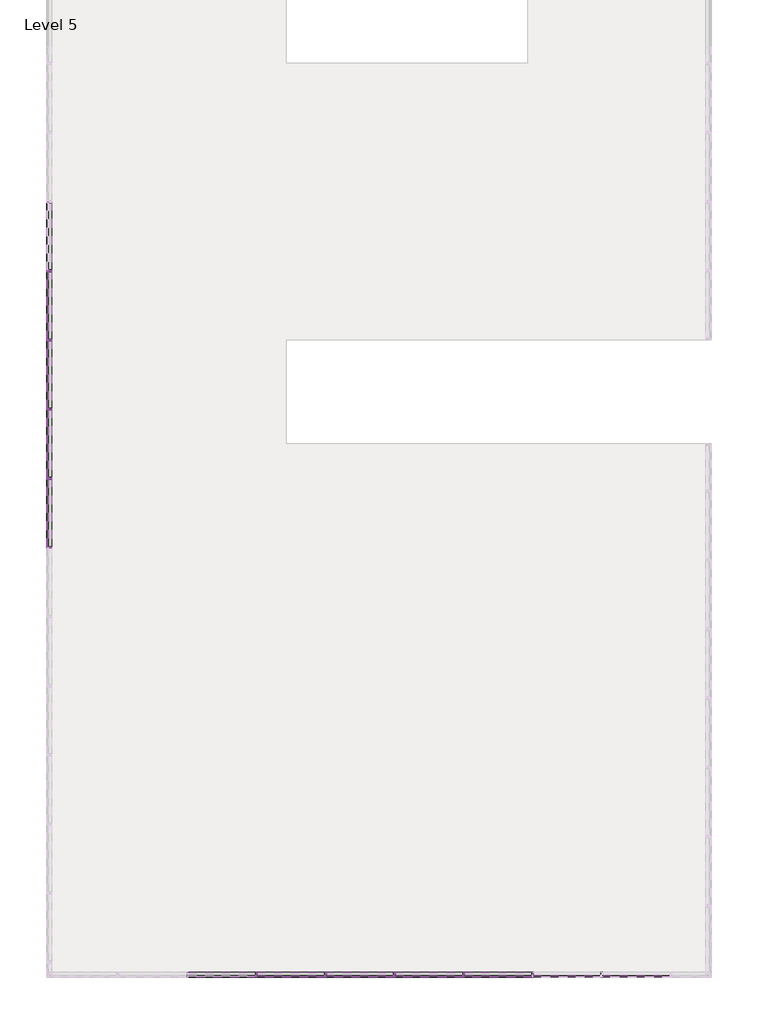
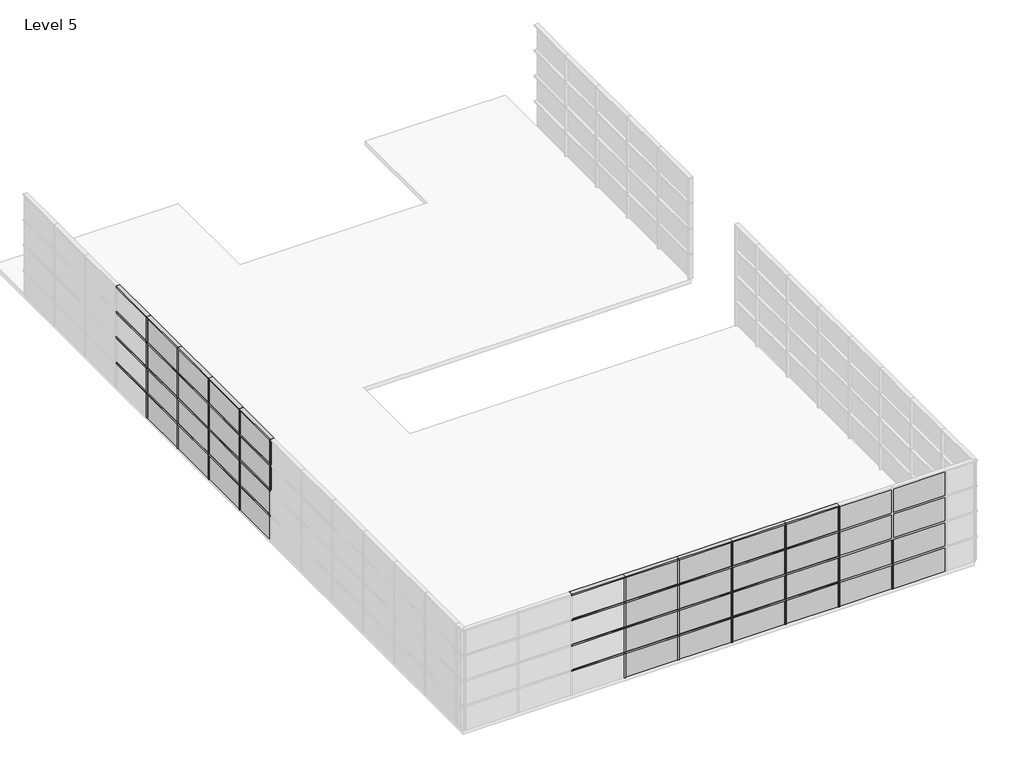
# One storey, part 2 of 5: 80 members, 40 plates.
"""IFC4 building model written with IfcOpenShell, lengths in millimetres."""

from ifc_helpers import new_model, si_unit, origin, place, context, project, spatial, transform, mapped, element, save
from components import rectangular_mullion_50_x_150mm_a053b0ca, rectangular_mullion_50_x_150mm_3a148f0f, system_panel_glazed_08de6f5f

model = new_model("IFC4")

# Units and contexts
model_context = context("Model", 3, world=origin())
ifc_project = project(units=[si_unit("LENGTHUNIT", "METRE", prefix="MILLI")], contexts=[model_context])

# Site, building, storey
site = spatial("IfcSite", under=ifc_project)
building = spatial("IfcBuilding", under=site)
storey = spatial("IfcBuildingStorey", under=building, Name="Level 5", Elevation=16000.0)

# Members
placement = place(None, origin())
rectangular_mullion_50_x_150mm_shape = rectangular_mullion_50_x_150mm_a053b0ca(model_context)
element("IfcMember", 1, ObjectType="Rectangular Mullion : 50 x 150mm", at=placement, inside=storey, context=model_context, shape_type="MappedRepresentation", body=[
    mapped(rectangular_mullion_50_x_150mm_shape, transform((412.826594, -21988.7417365, 16025.0), x_axis=(1.0, 0.0, 0.0), y_axis=(0.0, -1.0, 0.0), z_axis=(0.0, 0.0, -1.0))),
])
element("IfcMember", 2, ObjectType="Rectangular Mullion : 50 x 150mm", at=placement, inside=storey, context=model_context, shape_type="MappedRepresentation", body=[
    mapped(rectangular_mullion_50_x_150mm_shape, transform((412.826594, -21988.7417365, 17025.0), x_axis=(1.0, 0.0, 0.0), y_axis=(0.0, -1.0, 0.0), z_axis=(0.0, 0.0, -1.0))),
])
element("IfcMember", 3, ObjectType="Rectangular Mullion : 50 x 150mm", at=placement, inside=storey, context=model_context, shape_type="MappedRepresentation", body=[
    mapped(rectangular_mullion_50_x_150mm_shape, transform((412.826594, -21988.7417365, 18025.0), x_axis=(1.0, 0.0, 0.0), y_axis=(0.0, -1.0, 0.0), z_axis=(0.0, 0.0, -1.0))),
])
element("IfcMember", 4, ObjectType="Rectangular Mullion : 50 x 150mm", at=placement, inside=storey, context=model_context, shape_type="MappedRepresentation", body=[
    mapped(rectangular_mullion_50_x_150mm_shape, transform((412.826594, -21988.7417365, 19025.0), x_axis=(1.0, 0.0, 0.0), y_axis=(0.0, -1.0, 0.0), z_axis=(0.0, 0.0, -1.0))),
])
element("IfcMember", 5, ObjectType="Rectangular Mullion : 50 x 150mm", at=placement, inside=storey, context=model_context, shape_type="MappedRepresentation", body=[
    mapped(rectangular_mullion_50_x_150mm_shape, transform((2412.826594, -21988.7417365, 16025.0), x_axis=(1.0, 0.0, 0.0), y_axis=(0.0, -1.0, 0.0), z_axis=(0.0, 0.0, -1.0))),
])
element("IfcMember", 6, ObjectType="Rectangular Mullion : 50 x 150mm", at=placement, inside=storey, context=model_context, shape_type="MappedRepresentation", body=[
    mapped(rectangular_mullion_50_x_150mm_shape, transform((2412.826594, -21988.7417365, 17025.0), x_axis=(1.0, 0.0, 0.0), y_axis=(0.0, -1.0, 0.0), z_axis=(0.0, 0.0, -1.0))),
])
element("IfcMember", 7, ObjectType="Rectangular Mullion : 50 x 150mm", at=placement, inside=storey, context=model_context, shape_type="MappedRepresentation", body=[
    mapped(rectangular_mullion_50_x_150mm_shape, transform((2412.826594, -21988.7417365, 18025.0), x_axis=(1.0, 0.0, 0.0), y_axis=(0.0, -1.0, 0.0), z_axis=(0.0, 0.0, -1.0))),
])
element("IfcMember", 8, ObjectType="Rectangular Mullion : 50 x 150mm", at=placement, inside=storey, context=model_context, shape_type="MappedRepresentation", body=[
    mapped(rectangular_mullion_50_x_150mm_shape, transform((2412.826594, -21988.7417365, 19025.0), x_axis=(1.0, 0.0, 0.0), y_axis=(0.0, -1.0, 0.0), z_axis=(0.0, 0.0, -1.0))),
])
element("IfcMember", 9, ObjectType="Rectangular Mullion : 50 x 150mm", at=placement, inside=storey, context=model_context, shape_type="MappedRepresentation", body=[
    mapped(rectangular_mullion_50_x_150mm_shape, transform((4412.826594, -21988.7417365, 16025.0), x_axis=(1.0, 0.0, 0.0), y_axis=(0.0, -1.0, 0.0), z_axis=(0.0, 0.0, -1.0))),
])
element("IfcMember", 10, ObjectType="Rectangular Mullion : 50 x 150mm", at=placement, inside=storey, context=model_context, shape_type="MappedRepresentation", body=[
    mapped(rectangular_mullion_50_x_150mm_shape, transform((4412.826594, -21988.7417365, 17025.0), x_axis=(1.0, 0.0, 0.0), y_axis=(0.0, -1.0, 0.0), z_axis=(0.0, 0.0, -1.0))),
])
element("IfcMember", 11, ObjectType="Rectangular Mullion : 50 x 150mm", at=placement, inside=storey, context=model_context, shape_type="MappedRepresentation", body=[
    mapped(rectangular_mullion_50_x_150mm_shape, transform((4412.826594, -21988.7417365, 18025.0), x_axis=(1.0, 0.0, 0.0), y_axis=(0.0, -1.0, 0.0), z_axis=(0.0, 0.0, -1.0))),
])
element("IfcMember", 12, ObjectType="Rectangular Mullion : 50 x 150mm", at=placement, inside=storey, context=model_context, shape_type="MappedRepresentation", body=[
    mapped(rectangular_mullion_50_x_150mm_shape, transform((4412.826594, -21988.7417365, 19025.0), x_axis=(1.0, 0.0, 0.0), y_axis=(0.0, -1.0, 0.0), z_axis=(0.0, 0.0, -1.0))),
])
element("IfcMember", 13, ObjectType="Rectangular Mullion : 50 x 150mm", at=placement, inside=storey, context=model_context, shape_type="MappedRepresentation", body=[
    mapped(rectangular_mullion_50_x_150mm_shape, transform((6412.826594, -21988.7417365, 16025.0), x_axis=(1.0, 0.0, 0.0), y_axis=(0.0, -1.0, 0.0), z_axis=(0.0, 0.0, -1.0))),
])
element("IfcMember", 14, ObjectType="Rectangular Mullion : 50 x 150mm", at=placement, inside=storey, context=model_context, shape_type="MappedRepresentation", body=[
    mapped(rectangular_mullion_50_x_150mm_shape, transform((6412.826594, -21988.7417365, 17025.0), x_axis=(1.0, 0.0, 0.0), y_axis=(0.0, -1.0, 0.0), z_axis=(0.0, 0.0, -1.0))),
])
element("IfcMember", 15, ObjectType="Rectangular Mullion : 50 x 150mm", at=placement, inside=storey, context=model_context, shape_type="MappedRepresentation", body=[
    mapped(rectangular_mullion_50_x_150mm_shape, transform((6412.826594, -21988.7417365, 18025.0), x_axis=(1.0, 0.0, 0.0), y_axis=(0.0, -1.0, 0.0), z_axis=(0.0, 0.0, -1.0))),
])
element("IfcMember", 16, ObjectType="Rectangular Mullion : 50 x 150mm", at=placement, inside=storey, context=model_context, shape_type="MappedRepresentation", body=[
    mapped(rectangular_mullion_50_x_150mm_shape, transform((6412.826594, -21988.7417365, 19025.0), x_axis=(1.0, 0.0, 0.0), y_axis=(0.0, -1.0, 0.0), z_axis=(0.0, 0.0, -1.0))),
])
element("IfcMember", 17, ObjectType="Rectangular Mullion : 50 x 150mm", at=placement, inside=storey, context=model_context, shape_type="MappedRepresentation", body=[
    mapped(rectangular_mullion_50_x_150mm_shape, transform((8412.826594, -21988.7417365, 16025.0), x_axis=(1.0, 0.0, 0.0), y_axis=(0.0, -1.0, 0.0), z_axis=(0.0, 0.0, -1.0))),
])
element("IfcMember", 18, ObjectType="Rectangular Mullion : 50 x 150mm", at=placement, inside=storey, context=model_context, shape_type="MappedRepresentation", body=[
    mapped(rectangular_mullion_50_x_150mm_shape, transform((8412.826594, -21988.7417365, 17025.0), x_axis=(1.0, 0.0, 0.0), y_axis=(0.0, -1.0, 0.0), z_axis=(0.0, 0.0, -1.0))),
])
element("IfcMember", 19, ObjectType="Rectangular Mullion : 50 x 150mm", at=placement, inside=storey, context=model_context, shape_type="MappedRepresentation", body=[
    mapped(rectangular_mullion_50_x_150mm_shape, transform((8412.826594, -21988.7417365, 18025.0), x_axis=(1.0, 0.0, 0.0), y_axis=(0.0, -1.0, 0.0), z_axis=(0.0, 0.0, -1.0))),
])
element("IfcMember", 20, ObjectType="Rectangular Mullion : 50 x 150mm", at=placement, inside=storey, context=model_context, shape_type="MappedRepresentation", body=[
    mapped(rectangular_mullion_50_x_150mm_shape, transform((8412.826594, -21988.7417365, 19025.0), x_axis=(1.0, 0.0, 0.0), y_axis=(0.0, -1.0, 0.0), z_axis=(0.0, 0.0, -1.0))),
])
element("IfcMember", 21, ObjectType="Rectangular Mullion : 50 x 150mm", at=placement, inside=storey, context=model_context, shape_type="MappedRepresentation", body=[
    mapped(rectangular_mullion_50_x_150mm_shape, transform((10412.826594, -21988.7417365, 16025.0), x_axis=(1.0, 0.0, 0.0), y_axis=(0.0, -1.0, 0.0), z_axis=(0.0, 0.0, -1.0))),
])
element("IfcMember", 22, ObjectType="Rectangular Mullion : 50 x 150mm", at=placement, inside=storey, context=model_context, shape_type="MappedRepresentation", body=[
    mapped(rectangular_mullion_50_x_150mm_shape, transform((10412.826594, -21988.7417365, 17025.0), x_axis=(1.0, 0.0, 0.0), y_axis=(0.0, -1.0, 0.0), z_axis=(0.0, 0.0, -1.0))),
])
element("IfcMember", 23, ObjectType="Rectangular Mullion : 50 x 150mm", at=placement, inside=storey, context=model_context, shape_type="MappedRepresentation", body=[
    mapped(rectangular_mullion_50_x_150mm_shape, transform((-5587.173406, -1624.0160434, 18025.0), x_axis=(0.0, -1.0, 0.0), y_axis=(-1.0, 0.0, 0.0), z_axis=(0.0, 0.0, -1.0))),
])
element("IfcMember", 24, ObjectType="Rectangular Mullion : 50 x 150mm", at=placement, inside=storey, context=model_context, shape_type="MappedRepresentation", body=[
    mapped(rectangular_mullion_50_x_150mm_shape, transform((-5587.173406, -1624.0160434, 19025.0), x_axis=(0.0, -1.0, 0.0), y_axis=(-1.0, 0.0, 0.0), z_axis=(0.0, 0.0, -1.0))),
])
element("IfcMember", 25, ObjectType="Rectangular Mullion : 50 x 150mm", at=placement, inside=storey, context=model_context, shape_type="MappedRepresentation", body=[
    mapped(rectangular_mullion_50_x_150mm_shape, transform((-5587.173406, -3624.0160434, 16025.0), x_axis=(0.0, -1.0, 0.0), y_axis=(-1.0, 0.0, 0.0), z_axis=(0.0, 0.0, -1.0))),
])
element("IfcMember", 26, ObjectType="Rectangular Mullion : 50 x 150mm", at=placement, inside=storey, context=model_context, shape_type="MappedRepresentation", body=[
    mapped(rectangular_mullion_50_x_150mm_shape, transform((-5587.173406, -3624.0160434, 17025.0), x_axis=(0.0, -1.0, 0.0), y_axis=(-1.0, 0.0, 0.0), z_axis=(0.0, 0.0, -1.0))),
])
element("IfcMember", 27, ObjectType="Rectangular Mullion : 50 x 150mm", at=placement, inside=storey, context=model_context, shape_type="MappedRepresentation", body=[
    mapped(rectangular_mullion_50_x_150mm_shape, transform((-5587.173406, -3624.0160434, 18025.0), x_axis=(0.0, -1.0, 0.0), y_axis=(-1.0, 0.0, 0.0), z_axis=(0.0, 0.0, -1.0))),
])
element("IfcMember", 28, ObjectType="Rectangular Mullion : 50 x 150mm", at=placement, inside=storey, context=model_context, shape_type="MappedRepresentation", body=[
    mapped(rectangular_mullion_50_x_150mm_shape, transform((-5587.173406, -3624.0160434, 19025.0), x_axis=(0.0, -1.0, 0.0), y_axis=(-1.0, 0.0, 0.0), z_axis=(0.0, 0.0, -1.0))),
])
element("IfcMember", 29, ObjectType="Rectangular Mullion : 50 x 150mm", at=placement, inside=storey, context=model_context, shape_type="MappedRepresentation", body=[
    mapped(rectangular_mullion_50_x_150mm_shape, transform((-5587.173406, -5624.0160434, 16025.0), x_axis=(0.0, -1.0, 0.0), y_axis=(-1.0, 0.0, 0.0), z_axis=(0.0, 0.0, -1.0))),
])
element("IfcMember", 30, ObjectType="Rectangular Mullion : 50 x 150mm", at=placement, inside=storey, context=model_context, shape_type="MappedRepresentation", body=[
    mapped(rectangular_mullion_50_x_150mm_shape, transform((-5587.173406, -5624.0160434, 17025.0), x_axis=(0.0, -1.0, 0.0), y_axis=(-1.0, 0.0, 0.0), z_axis=(0.0, 0.0, -1.0))),
])
element("IfcMember", 31, ObjectType="Rectangular Mullion : 50 x 150mm", at=placement, inside=storey, context=model_context, shape_type="MappedRepresentation", body=[
    mapped(rectangular_mullion_50_x_150mm_shape, transform((-5587.173406, -5624.0160434, 18025.0), x_axis=(0.0, -1.0, 0.0), y_axis=(-1.0, 0.0, 0.0), z_axis=(0.0, 0.0, -1.0))),
])
element("IfcMember", 32, ObjectType="Rectangular Mullion : 50 x 150mm", at=placement, inside=storey, context=model_context, shape_type="MappedRepresentation", body=[
    mapped(rectangular_mullion_50_x_150mm_shape, transform((-5587.173406, -5624.0160434, 19025.0), x_axis=(0.0, -1.0, 0.0), y_axis=(-1.0, 0.0, 0.0), z_axis=(0.0, 0.0, -1.0))),
])
element("IfcMember", 33, ObjectType="Rectangular Mullion : 50 x 150mm", at=placement, inside=storey, context=model_context, shape_type="MappedRepresentation", body=[
    mapped(rectangular_mullion_50_x_150mm_shape, transform((-5587.173406, -7624.0160434, 16025.0), x_axis=(0.0, -1.0, 0.0), y_axis=(-1.0, 0.0, 0.0), z_axis=(0.0, 0.0, -1.0))),
])
element("IfcMember", 34, ObjectType="Rectangular Mullion : 50 x 150mm", at=placement, inside=storey, context=model_context, shape_type="MappedRepresentation", body=[
    mapped(rectangular_mullion_50_x_150mm_shape, transform((-5587.173406, -1624.0160434, 16025.0), x_axis=(0.0, -1.0, 0.0), y_axis=(-1.0, 0.0, 0.0), z_axis=(0.0, 0.0, -1.0))),
])
element("IfcMember", 35, ObjectType="Rectangular Mullion : 50 x 150mm", at=placement, inside=storey, context=model_context, shape_type="MappedRepresentation", body=[
    mapped(rectangular_mullion_50_x_150mm_shape, transform((-5587.173406, -1624.0160434, 17025.0), x_axis=(0.0, -1.0, 0.0), y_axis=(-1.0, 0.0, 0.0), z_axis=(0.0, 0.0, -1.0))),
])
element("IfcMember", 36, ObjectType="Rectangular Mullion : 50 x 150mm", at=placement, inside=storey, context=model_context, shape_type="MappedRepresentation", body=[
    mapped(rectangular_mullion_50_x_150mm_shape, transform((-5587.173406, -7624.0160434, 17025.0), x_axis=(0.0, -1.0, 0.0), y_axis=(-1.0, 0.0, 0.0), z_axis=(0.0, 0.0, -1.0))),
])
element("IfcMember", 37, ObjectType="Rectangular Mullion : 50 x 150mm", at=placement, inside=storey, context=model_context, shape_type="MappedRepresentation", body=[
    mapped(rectangular_mullion_50_x_150mm_shape, transform((-5587.173406, -7624.0160434, 18025.0), x_axis=(0.0, -1.0, 0.0), y_axis=(-1.0, 0.0, 0.0), z_axis=(0.0, 0.0, -1.0))),
])
element("IfcMember", 38, ObjectType="Rectangular Mullion : 50 x 150mm", at=placement, inside=storey, context=model_context, shape_type="MappedRepresentation", body=[
    mapped(rectangular_mullion_50_x_150mm_shape, transform((-5587.173406, -7624.0160434, 19025.0), x_axis=(0.0, -1.0, 0.0), y_axis=(-1.0, 0.0, 0.0), z_axis=(0.0, 0.0, -1.0))),
])
element("IfcMember", 39, ObjectType="Rectangular Mullion : 50 x 150mm", at=placement, inside=storey, context=model_context, shape_type="MappedRepresentation", body=[
    mapped(rectangular_mullion_50_x_150mm_shape, transform((-5587.173406, -9624.0160434, 18025.0), x_axis=(0.0, -1.0, 0.0), y_axis=(-1.0, 0.0, 0.0), z_axis=(0.0, 0.0, -1.0))),
])
element("IfcMember", 40, ObjectType="Rectangular Mullion : 50 x 150mm", at=placement, inside=storey, context=model_context, shape_type="MappedRepresentation", body=[
    mapped(rectangular_mullion_50_x_150mm_shape, transform((-5587.173406, -9624.0160434, 19025.0), x_axis=(0.0, -1.0, 0.0), y_axis=(-1.0, 0.0, 0.0), z_axis=(0.0, 0.0, -1.0))),
])
rectangular_mullion_50_x_150mm_2_shape = rectangular_mullion_50_x_150mm_3a148f0f(model_context)
element("IfcMember", 41, ObjectType="Rectangular Mullion : 50 x 150mm", at=placement, inside=storey, context=model_context, shape_type="MappedRepresentation", body=[
    mapped(rectangular_mullion_50_x_150mm_2_shape, transform((412.826594, -21988.7417365, 17000.0), x_axis=(0.0, 0.0, 1.0), y_axis=(0.0, -1.0, 0.0), z_axis=(1.0, 0.0, 0.0))),
])
element("IfcMember", 42, ObjectType="Rectangular Mullion : 50 x 150mm", at=placement, inside=storey, context=model_context, shape_type="MappedRepresentation", body=[
    mapped(rectangular_mullion_50_x_150mm_2_shape, transform((2412.826594, -21988.7417365, 17000.0), x_axis=(0.0, 0.0, 1.0), y_axis=(0.0, -1.0, 0.0), z_axis=(1.0, 0.0, 0.0))),
])
element("IfcMember", 43, ObjectType="Rectangular Mullion : 50 x 150mm", at=placement, inside=storey, context=model_context, shape_type="MappedRepresentation", body=[
    mapped(rectangular_mullion_50_x_150mm_2_shape, transform((4412.826594, -21988.7417365, 17000.0), x_axis=(0.0, 0.0, 1.0), y_axis=(0.0, -1.0, 0.0), z_axis=(1.0, 0.0, 0.0))),
])
element("IfcMember", 44, ObjectType="Rectangular Mullion : 50 x 150mm", at=placement, inside=storey, context=model_context, shape_type="MappedRepresentation", body=[
    mapped(rectangular_mullion_50_x_150mm_2_shape, transform((6412.826594, -21988.7417365, 17000.0), x_axis=(0.0, 0.0, 1.0), y_axis=(0.0, -1.0, 0.0), z_axis=(1.0, 0.0, 0.0))),
])
element("IfcMember", 45, ObjectType="Rectangular Mullion : 50 x 150mm", at=placement, inside=storey, context=model_context, shape_type="MappedRepresentation", body=[
    mapped(rectangular_mullion_50_x_150mm_2_shape, transform((8412.826594, -21988.7417365, 17000.0), x_axis=(0.0, 0.0, 1.0), y_axis=(0.0, -1.0, 0.0), z_axis=(1.0, 0.0, 0.0))),
])
element("IfcMember", 46, ObjectType="Rectangular Mullion : 50 x 150mm", at=placement, inside=storey, context=model_context, shape_type="MappedRepresentation", body=[
    mapped(rectangular_mullion_50_x_150mm_2_shape, transform((412.826594, -21988.7417365, 18000.0), x_axis=(0.0, 0.0, 1.0), y_axis=(0.0, -1.0, 0.0), z_axis=(1.0, 0.0, 0.0))),
])
element("IfcMember", 47, ObjectType="Rectangular Mullion : 50 x 150mm", at=placement, inside=storey, context=model_context, shape_type="MappedRepresentation", body=[
    mapped(rectangular_mullion_50_x_150mm_2_shape, transform((2412.826594, -21988.7417365, 18000.0), x_axis=(0.0, 0.0, 1.0), y_axis=(0.0, -1.0, 0.0), z_axis=(1.0, 0.0, 0.0))),
])
element("IfcMember", 48, ObjectType="Rectangular Mullion : 50 x 150mm", at=placement, inside=storey, context=model_context, shape_type="MappedRepresentation", body=[
    mapped(rectangular_mullion_50_x_150mm_2_shape, transform((4412.826594, -21988.7417365, 18000.0), x_axis=(0.0, 0.0, 1.0), y_axis=(0.0, -1.0, 0.0), z_axis=(1.0, 0.0, 0.0))),
])
element("IfcMember", 49, ObjectType="Rectangular Mullion : 50 x 150mm", at=placement, inside=storey, context=model_context, shape_type="MappedRepresentation", body=[
    mapped(rectangular_mullion_50_x_150mm_2_shape, transform((6412.826594, -21988.7417365, 18000.0), x_axis=(0.0, 0.0, 1.0), y_axis=(0.0, -1.0, 0.0), z_axis=(1.0, 0.0, 0.0))),
])
element("IfcMember", 50, ObjectType="Rectangular Mullion : 50 x 150mm", at=placement, inside=storey, context=model_context, shape_type="MappedRepresentation", body=[
    mapped(rectangular_mullion_50_x_150mm_2_shape, transform((8412.826594, -21988.7417365, 18000.0), x_axis=(0.0, 0.0, 1.0), y_axis=(0.0, -1.0, 0.0), z_axis=(1.0, 0.0, 0.0))),
])
element("IfcMember", 51, ObjectType="Rectangular Mullion : 50 x 150mm", at=placement, inside=storey, context=model_context, shape_type="MappedRepresentation", body=[
    mapped(rectangular_mullion_50_x_150mm_2_shape, transform((412.826594, -21988.7417365, 19000.0), x_axis=(0.0, 0.0, 1.0), y_axis=(0.0, -1.0, 0.0), z_axis=(1.0, 0.0, 0.0))),
])
element("IfcMember", 52, ObjectType="Rectangular Mullion : 50 x 150mm", at=placement, inside=storey, context=model_context, shape_type="MappedRepresentation", body=[
    mapped(rectangular_mullion_50_x_150mm_2_shape, transform((2412.826594, -21988.7417365, 19000.0), x_axis=(0.0, 0.0, 1.0), y_axis=(0.0, -1.0, 0.0), z_axis=(1.0, 0.0, 0.0))),
])
element("IfcMember", 53, ObjectType="Rectangular Mullion : 50 x 150mm", at=placement, inside=storey, context=model_context, shape_type="MappedRepresentation", body=[
    mapped(rectangular_mullion_50_x_150mm_2_shape, transform((4412.826594, -21988.7417365, 19000.0), x_axis=(0.0, 0.0, 1.0), y_axis=(0.0, -1.0, 0.0), z_axis=(1.0, 0.0, 0.0))),
])
element("IfcMember", 54, ObjectType="Rectangular Mullion : 50 x 150mm", at=placement, inside=storey, context=model_context, shape_type="MappedRepresentation", body=[
    mapped(rectangular_mullion_50_x_150mm_2_shape, transform((6412.826594, -21988.7417365, 19000.0), x_axis=(0.0, 0.0, 1.0), y_axis=(0.0, -1.0, 0.0), z_axis=(1.0, 0.0, 0.0))),
])
element("IfcMember", 55, ObjectType="Rectangular Mullion : 50 x 150mm", at=placement, inside=storey, context=model_context, shape_type="MappedRepresentation", body=[
    mapped(rectangular_mullion_50_x_150mm_2_shape, transform((8412.826594, -21988.7417365, 19000.0), x_axis=(0.0, 0.0, 1.0), y_axis=(0.0, -1.0, 0.0), z_axis=(1.0, 0.0, 0.0))),
])
element("IfcMember", 56, ObjectType="Rectangular Mullion : 50 x 150mm", at=placement, inside=storey, context=model_context, shape_type="MappedRepresentation", body=[
    mapped(rectangular_mullion_50_x_150mm_2_shape, transform((412.826594, -21988.7417365, 20000.0), x_axis=(0.0, 0.0, 1.0), y_axis=(0.0, -1.0, 0.0), z_axis=(1.0, 0.0, 0.0))),
])
element("IfcMember", 57, ObjectType="Rectangular Mullion : 50 x 150mm", at=placement, inside=storey, context=model_context, shape_type="MappedRepresentation", body=[
    mapped(rectangular_mullion_50_x_150mm_2_shape, transform((2412.826594, -21988.7417365, 20000.0), x_axis=(0.0, 0.0, 1.0), y_axis=(0.0, -1.0, 0.0), z_axis=(1.0, 0.0, 0.0))),
])
element("IfcMember", 58, ObjectType="Rectangular Mullion : 50 x 150mm", at=placement, inside=storey, context=model_context, shape_type="MappedRepresentation", body=[
    mapped(rectangular_mullion_50_x_150mm_2_shape, transform((4412.826594, -21988.7417365, 20000.0), x_axis=(0.0, 0.0, 1.0), y_axis=(0.0, -1.0, 0.0), z_axis=(1.0, 0.0, 0.0))),
])
element("IfcMember", 59, ObjectType="Rectangular Mullion : 50 x 150mm", at=placement, inside=storey, context=model_context, shape_type="MappedRepresentation", body=[
    mapped(rectangular_mullion_50_x_150mm_2_shape, transform((6412.826594, -21988.7417365, 20000.0), x_axis=(0.0, 0.0, 1.0), y_axis=(0.0, -1.0, 0.0), z_axis=(1.0, 0.0, 0.0))),
])
element("IfcMember", 60, ObjectType="Rectangular Mullion : 50 x 150mm", at=placement, inside=storey, context=model_context, shape_type="MappedRepresentation", body=[
    mapped(rectangular_mullion_50_x_150mm_2_shape, transform((8412.826594, -21988.7417365, 20000.0), x_axis=(0.0, 0.0, 1.0), y_axis=(0.0, -1.0, 0.0), z_axis=(1.0, 0.0, 0.0))),
])
element("IfcMember", 61, ObjectType="Rectangular Mullion : 50 x 150mm", at=placement, inside=storey, context=model_context, shape_type="MappedRepresentation", body=[
    mapped(rectangular_mullion_50_x_150mm_2_shape, transform((-5587.173406, -1624.0160434, 17000.0), x_axis=(0.0, 0.0, 1.0), y_axis=(-1.0, 0.0, 0.0), z_axis=(0.0, -1.0, 0.0))),
])
element("IfcMember", 62, ObjectType="Rectangular Mullion : 50 x 150mm", at=placement, inside=storey, context=model_context, shape_type="MappedRepresentation", body=[
    mapped(rectangular_mullion_50_x_150mm_2_shape, transform((-5587.173406, -3624.0160434, 17000.0), x_axis=(0.0, 0.0, 1.0), y_axis=(-1.0, 0.0, 0.0), z_axis=(0.0, -0.9999999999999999, 0.0))),
])
element("IfcMember", 63, ObjectType="Rectangular Mullion : 50 x 150mm", at=placement, inside=storey, context=model_context, shape_type="MappedRepresentation", body=[
    mapped(rectangular_mullion_50_x_150mm_2_shape, transform((-5587.173406, -5624.0160434, 17000.0), x_axis=(0.0, 0.0, 1.0), y_axis=(-1.0, 0.0, 0.0), z_axis=(0.0, -1.0, 0.0))),
])
element("IfcMember", 64, ObjectType="Rectangular Mullion : 50 x 150mm", at=placement, inside=storey, context=model_context, shape_type="MappedRepresentation", body=[
    mapped(rectangular_mullion_50_x_150mm_2_shape, transform((-5587.173406, -7624.0160434, 17000.0), x_axis=(0.0, 0.0, 1.0), y_axis=(-1.0, 0.0, 0.0), z_axis=(0.0, -1.0, 0.0))),
])
element("IfcMember", 65, ObjectType="Rectangular Mullion : 50 x 150mm", at=placement, inside=storey, context=model_context, shape_type="MappedRepresentation", body=[
    mapped(rectangular_mullion_50_x_150mm_2_shape, transform((-5587.173406, -9624.0160434, 17000.0), x_axis=(0.0, 0.0, 1.0), y_axis=(-1.0, 0.0, 0.0), z_axis=(0.0, -1.0, 0.0))),
])
element("IfcMember", 66, ObjectType="Rectangular Mullion : 50 x 150mm", at=placement, inside=storey, context=model_context, shape_type="MappedRepresentation", body=[
    mapped(rectangular_mullion_50_x_150mm_2_shape, transform((-5587.173406, -1624.0160434, 18000.0), x_axis=(0.0, 0.0, 1.0), y_axis=(-1.0, 0.0, 0.0), z_axis=(0.0, -1.0, 0.0))),
])
element("IfcMember", 67, ObjectType="Rectangular Mullion : 50 x 150mm", at=placement, inside=storey, context=model_context, shape_type="MappedRepresentation", body=[
    mapped(rectangular_mullion_50_x_150mm_2_shape, transform((-5587.173406, -3624.0160434, 18000.0), x_axis=(0.0, 0.0, 1.0), y_axis=(-1.0, 0.0, 0.0), z_axis=(0.0, -0.9999999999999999, 0.0))),
])
element("IfcMember", 68, ObjectType="Rectangular Mullion : 50 x 150mm", at=placement, inside=storey, context=model_context, shape_type="MappedRepresentation", body=[
    mapped(rectangular_mullion_50_x_150mm_2_shape, transform((-5587.173406, -5624.0160434, 18000.0), x_axis=(0.0, 0.0, 1.0), y_axis=(-1.0, 0.0, 0.0), z_axis=(0.0, -1.0, 0.0))),
])
element("IfcMember", 69, ObjectType="Rectangular Mullion : 50 x 150mm", at=placement, inside=storey, context=model_context, shape_type="MappedRepresentation", body=[
    mapped(rectangular_mullion_50_x_150mm_2_shape, transform((-5587.173406, -7624.0160434, 18000.0), x_axis=(0.0, 0.0, 1.0), y_axis=(-1.0, 0.0, 0.0), z_axis=(0.0, -1.0, 0.0))),
])
element("IfcMember", 70, ObjectType="Rectangular Mullion : 50 x 150mm", at=placement, inside=storey, context=model_context, shape_type="MappedRepresentation", body=[
    mapped(rectangular_mullion_50_x_150mm_2_shape, transform((-5587.173406, -9624.0160434, 18000.0), x_axis=(0.0, 0.0, 1.0), y_axis=(-1.0, 0.0, 0.0), z_axis=(0.0, -1.0, 0.0))),
])
element("IfcMember", 71, ObjectType="Rectangular Mullion : 50 x 150mm", at=placement, inside=storey, context=model_context, shape_type="MappedRepresentation", body=[
    mapped(rectangular_mullion_50_x_150mm_2_shape, transform((-5587.173406, -1624.0160434, 19000.0), x_axis=(0.0, 0.0, 1.0), y_axis=(-1.0, 0.0, 0.0), z_axis=(0.0, -1.0, 0.0))),
])
element("IfcMember", 72, ObjectType="Rectangular Mullion : 50 x 150mm", at=placement, inside=storey, context=model_context, shape_type="MappedRepresentation", body=[
    mapped(rectangular_mullion_50_x_150mm_2_shape, transform((-5587.173406, -3624.0160434, 19000.0), x_axis=(0.0, 0.0, 1.0), y_axis=(-1.0, 0.0, 0.0), z_axis=(0.0, -0.9999999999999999, 0.0))),
])
element("IfcMember", 73, ObjectType="Rectangular Mullion : 50 x 150mm", at=placement, inside=storey, context=model_context, shape_type="MappedRepresentation", body=[
    mapped(rectangular_mullion_50_x_150mm_2_shape, transform((-5587.173406, -5624.0160434, 19000.0), x_axis=(0.0, 0.0, 1.0), y_axis=(-1.0, 0.0, 0.0), z_axis=(0.0, -1.0, 0.0))),
])
element("IfcMember", 74, ObjectType="Rectangular Mullion : 50 x 150mm", at=placement, inside=storey, context=model_context, shape_type="MappedRepresentation", body=[
    mapped(rectangular_mullion_50_x_150mm_2_shape, transform((-5587.173406, -7624.0160434, 19000.0), x_axis=(0.0, 0.0, 1.0), y_axis=(-1.0, 0.0, 0.0), z_axis=(0.0, -1.0, 0.0))),
])
element("IfcMember", 75, ObjectType="Rectangular Mullion : 50 x 150mm", at=placement, inside=storey, context=model_context, shape_type="MappedRepresentation", body=[
    mapped(rectangular_mullion_50_x_150mm_2_shape, transform((-5587.173406, -9624.0160434, 19000.0), x_axis=(0.0, 0.0, 1.0), y_axis=(-1.0, 0.0, 0.0), z_axis=(0.0, -1.0, 0.0))),
])
element("IfcMember", 76, ObjectType="Rectangular Mullion : 50 x 150mm", at=placement, inside=storey, context=model_context, shape_type="MappedRepresentation", body=[
    mapped(rectangular_mullion_50_x_150mm_2_shape, transform((-5587.173406, -1624.0160434, 20000.0), x_axis=(0.0, 0.0, 1.0), y_axis=(-1.0, 0.0, 0.0), z_axis=(0.0, -1.0, 0.0))),
])
element("IfcMember", 77, ObjectType="Rectangular Mullion : 50 x 150mm", at=placement, inside=storey, context=model_context, shape_type="MappedRepresentation", body=[
    mapped(rectangular_mullion_50_x_150mm_2_shape, transform((-5587.173406, -3624.0160434, 20000.0), x_axis=(0.0, 0.0, 1.0), y_axis=(-1.0, 0.0, 0.0), z_axis=(0.0, -0.9999999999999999, 0.0))),
])
element("IfcMember", 78, ObjectType="Rectangular Mullion : 50 x 150mm", at=placement, inside=storey, context=model_context, shape_type="MappedRepresentation", body=[
    mapped(rectangular_mullion_50_x_150mm_2_shape, transform((-5587.173406, -5624.0160434, 20000.0), x_axis=(0.0, 0.0, 1.0), y_axis=(-1.0, 0.0, 0.0), z_axis=(0.0, -1.0, 0.0))),
])
element("IfcMember", 79, ObjectType="Rectangular Mullion : 50 x 150mm", at=placement, inside=storey, context=model_context, shape_type="MappedRepresentation", body=[
    mapped(rectangular_mullion_50_x_150mm_2_shape, transform((-5587.173406, -7624.0160434, 20000.0), x_axis=(0.0, 0.0, 1.0), y_axis=(-1.0, 0.0, 0.0), z_axis=(0.0, -1.0, 0.0))),
])
element("IfcMember", 80, ObjectType="Rectangular Mullion : 50 x 150mm", at=placement, inside=storey, context=model_context, shape_type="MappedRepresentation", body=[
    mapped(rectangular_mullion_50_x_150mm_2_shape, transform((-5587.173406, -9624.0160434, 20000.0), x_axis=(0.0, 0.0, 1.0), y_axis=(-1.0, 0.0, 0.0), z_axis=(0.0, -1.0, 0.0))),
])

# Plates
system_panel_glazed_shape = system_panel_glazed_08de6f5f(model_context)
element("IfcPlate", 81, ObjectType="System Panel : Glazed", at=placement, inside=storey, context=model_context, shape_type="MappedRepresentation", body=[
    mapped(system_panel_glazed_shape, transform((-5587.173406, -1649.0160434, 16500.0), x_axis=(0.0, 0.0, 1.0), y_axis=(-1.0, 0.0, 0.0), z_axis=(0.0, -1.0, 0.0))),
])
element("IfcPlate", 82, ObjectType="System Panel : Glazed", at=placement, inside=storey, context=model_context, shape_type="MappedRepresentation", body=[
    mapped(system_panel_glazed_shape, transform((-5587.173406, -3649.0160434, 16500.0), x_axis=(0.0, 0.0, 1.0), y_axis=(-1.0, 0.0, 0.0), z_axis=(0.0, -1.0, 0.0))),
])
element("IfcPlate", 83, ObjectType="System Panel : Glazed", at=placement, inside=storey, context=model_context, shape_type="MappedRepresentation", body=[
    mapped(system_panel_glazed_shape, transform((-5587.173406, -5649.0160434, 16500.0), x_axis=(0.0, 0.0, 1.0), y_axis=(-1.0, 0.0, 0.0), z_axis=(0.0, -1.0, 0.0))),
])
element("IfcPlate", 84, ObjectType="System Panel : Glazed", at=placement, inside=storey, context=model_context, shape_type="MappedRepresentation", body=[
    mapped(system_panel_glazed_shape, transform((-5587.173406, -7649.0160434, 16500.0), x_axis=(0.0, 0.0, 1.0), y_axis=(-1.0, 0.0, 0.0), z_axis=(0.0, -1.0, 0.0))),
])
element("IfcPlate", 85, ObjectType="System Panel : Glazed", at=placement, inside=storey, context=model_context, shape_type="MappedRepresentation", body=[
    mapped(system_panel_glazed_shape, transform((-5587.173406, -1649.0160434, 17500.0), x_axis=(0.0, 0.0, 1.0), y_axis=(-1.0, 0.0, 0.0), z_axis=(0.0, -1.0, 0.0))),
])
element("IfcPlate", 86, ObjectType="System Panel : Glazed", at=placement, inside=storey, context=model_context, shape_type="MappedRepresentation", body=[
    mapped(system_panel_glazed_shape, transform((-5587.173406, -3649.0160434, 17500.0), x_axis=(0.0, 0.0, 1.0), y_axis=(-1.0, 0.0, 0.0), z_axis=(0.0, -1.0, 0.0))),
])
element("IfcPlate", 87, ObjectType="System Panel : Glazed", at=placement, inside=storey, context=model_context, shape_type="MappedRepresentation", body=[
    mapped(system_panel_glazed_shape, transform((-5587.173406, -5649.0160434, 17500.0), x_axis=(0.0, 0.0, 1.0), y_axis=(-1.0, 0.0, 0.0), z_axis=(0.0, -1.0, 0.0))),
])
element("IfcPlate", 88, ObjectType="System Panel : Glazed", at=placement, inside=storey, context=model_context, shape_type="MappedRepresentation", body=[
    mapped(system_panel_glazed_shape, transform((-5587.173406, -7649.0160434, 17500.0), x_axis=(0.0, 0.0, 1.0), y_axis=(-1.0, 0.0, 0.0), z_axis=(0.0, -1.0, 0.0))),
])
element("IfcPlate", 89, ObjectType="System Panel : Glazed", at=placement, inside=storey, context=model_context, shape_type="MappedRepresentation", body=[
    mapped(system_panel_glazed_shape, transform((-5587.173406, -1649.0160434, 18500.0), x_axis=(0.0, 0.0, 1.0), y_axis=(-1.0, 0.0, 0.0), z_axis=(0.0, -1.0, 0.0))),
])
element("IfcPlate", 90, ObjectType="System Panel : Glazed", at=placement, inside=storey, context=model_context, shape_type="MappedRepresentation", body=[
    mapped(system_panel_glazed_shape, transform((-5587.173406, -3649.0160434, 18500.0), x_axis=(0.0, 0.0, 1.0), y_axis=(-1.0, 0.0, 0.0), z_axis=(0.0, -1.0, 0.0))),
])
element("IfcPlate", 91, ObjectType="System Panel : Glazed", at=placement, inside=storey, context=model_context, shape_type="MappedRepresentation", body=[
    mapped(system_panel_glazed_shape, transform((-5587.173406, -5649.0160434, 18500.0), x_axis=(0.0, 0.0, 1.0), y_axis=(-1.0, 0.0, 0.0), z_axis=(0.0, -1.0, 0.0))),
])
element("IfcPlate", 92, ObjectType="System Panel : Glazed", at=placement, inside=storey, context=model_context, shape_type="MappedRepresentation", body=[
    mapped(system_panel_glazed_shape, transform((-5587.173406, -7649.0160434, 18500.0), x_axis=(0.0, 0.0, 1.0), y_axis=(-1.0, 0.0, 0.0), z_axis=(0.0, -1.0, 0.0))),
])
element("IfcPlate", 93, ObjectType="System Panel : Glazed", at=placement, inside=storey, context=model_context, shape_type="MappedRepresentation", body=[
    mapped(system_panel_glazed_shape, transform((-5587.173406, -1649.0160434, 19500.0), x_axis=(0.0, 0.0, 1.0), y_axis=(-1.0, 0.0, 0.0), z_axis=(0.0, -1.0, 0.0))),
])
element("IfcPlate", 94, ObjectType="System Panel : Glazed", at=placement, inside=storey, context=model_context, shape_type="MappedRepresentation", body=[
    mapped(system_panel_glazed_shape, transform((-5587.173406, -3649.0160434, 19500.0), x_axis=(0.0, 0.0, 1.0), y_axis=(-1.0, 0.0, 0.0), z_axis=(0.0, -1.0, 0.0))),
])
element("IfcPlate", 95, ObjectType="System Panel : Glazed", at=placement, inside=storey, context=model_context, shape_type="MappedRepresentation", body=[
    mapped(system_panel_glazed_shape, transform((-5587.173406, -5649.0160434, 19500.0), x_axis=(0.0, 0.0, 1.0), y_axis=(-1.0, 0.0, 0.0), z_axis=(0.0, -1.0, 0.0))),
])
element("IfcPlate", 96, ObjectType="System Panel : Glazed", at=placement, inside=storey, context=model_context, shape_type="MappedRepresentation", body=[
    mapped(system_panel_glazed_shape, transform((-5587.173406, -7649.0160434, 19500.0), x_axis=(0.0, 0.0, 1.0), y_axis=(-1.0, 0.0, 0.0), z_axis=(0.0, -1.0, 0.0))),
])
element("IfcPlate", 97, ObjectType="System Panel : Glazed", at=placement, inside=storey, context=model_context, shape_type="MappedRepresentation", body=[
    mapped(system_panel_glazed_shape, transform((437.826594, -21988.7417365, 16500.0), x_axis=(0.0, 0.0, 1.0), y_axis=(0.0, -1.0, 0.0), z_axis=(1.0, 0.0, 0.0))),
])
element("IfcPlate", 98, ObjectType="System Panel : Glazed", at=placement, inside=storey, context=model_context, shape_type="MappedRepresentation", body=[
    mapped(system_panel_glazed_shape, transform((2437.826594, -21988.7417365, 16500.0), x_axis=(0.0, 0.0, 1.0), y_axis=(0.0, -1.0, 0.0), z_axis=(1.0, 0.0, 0.0))),
])
element("IfcPlate", 99, ObjectType="System Panel : Glazed", at=placement, inside=storey, context=model_context, shape_type="MappedRepresentation", body=[
    mapped(system_panel_glazed_shape, transform((4437.826594, -21988.7417365, 16500.0), x_axis=(0.0, 0.0, 1.0), y_axis=(0.0, -1.0, 0.0), z_axis=(1.0, 0.0, 0.0))),
])
element("IfcPlate", 100, ObjectType="System Panel : Glazed", at=placement, inside=storey, context=model_context, shape_type="MappedRepresentation", body=[
    mapped(system_panel_glazed_shape, transform((6437.826594, -21988.7417365, 16500.0), x_axis=(0.0, 0.0, 1.0), y_axis=(0.0, -1.0, 0.0), z_axis=(1.0, 0.0, 0.0))),
])
element("IfcPlate", 101, ObjectType="System Panel : Glazed", at=placement, inside=storey, context=model_context, shape_type="MappedRepresentation", body=[
    mapped(system_panel_glazed_shape, transform((8437.826594, -21988.7417365, 16500.0), x_axis=(0.0, 0.0, 1.0), y_axis=(0.0, -1.0, 0.0), z_axis=(1.0, 0.0, 0.0))),
])
element("IfcPlate", 102, ObjectType="System Panel : Glazed", at=placement, inside=storey, context=model_context, shape_type="MappedRepresentation", body=[
    mapped(system_panel_glazed_shape, transform((10437.826594, -21988.7417365, 16500.0), x_axis=(0.0, 0.0, 1.0), y_axis=(0.0, -1.0, 0.0), z_axis=(1.0, 0.0, 0.0))),
])
element("IfcPlate", 103, ObjectType="System Panel : Glazed", at=placement, inside=storey, context=model_context, shape_type="MappedRepresentation", body=[
    mapped(system_panel_glazed_shape, transform((437.826594, -21988.7417365, 17500.0), x_axis=(0.0, 0.0, 1.0), y_axis=(0.0, -1.0, 0.0), z_axis=(1.0, 0.0, 0.0))),
])
element("IfcPlate", 104, ObjectType="System Panel : Glazed", at=placement, inside=storey, context=model_context, shape_type="MappedRepresentation", body=[
    mapped(system_panel_glazed_shape, transform((2437.826594, -21988.7417365, 17500.0), x_axis=(0.0, 0.0, 1.0), y_axis=(0.0, -1.0, 0.0), z_axis=(1.0, 0.0, 0.0))),
])
element("IfcPlate", 105, ObjectType="System Panel : Glazed", at=placement, inside=storey, context=model_context, shape_type="MappedRepresentation", body=[
    mapped(system_panel_glazed_shape, transform((4437.826594, -21988.7417365, 17500.0), x_axis=(0.0, 0.0, 1.0), y_axis=(0.0, -1.0, 0.0), z_axis=(1.0, 0.0, 0.0))),
])
element("IfcPlate", 106, ObjectType="System Panel : Glazed", at=placement, inside=storey, context=model_context, shape_type="MappedRepresentation", body=[
    mapped(system_panel_glazed_shape, transform((6437.826594, -21988.7417365, 17500.0), x_axis=(0.0, 0.0, 1.0), y_axis=(0.0, -1.0, 0.0), z_axis=(1.0, 0.0, 0.0))),
])
element("IfcPlate", 107, ObjectType="System Panel : Glazed", at=placement, inside=storey, context=model_context, shape_type="MappedRepresentation", body=[
    mapped(system_panel_glazed_shape, transform((8437.826594, -21988.7417365, 17500.0), x_axis=(0.0, 0.0, 1.0), y_axis=(0.0, -1.0, 0.0), z_axis=(1.0, 0.0, 0.0))),
])
element("IfcPlate", 108, ObjectType="System Panel : Glazed", at=placement, inside=storey, context=model_context, shape_type="MappedRepresentation", body=[
    mapped(system_panel_glazed_shape, transform((10437.826594, -21988.7417365, 17500.0), x_axis=(0.0, 0.0, 1.0), y_axis=(0.0, -1.0, 0.0), z_axis=(1.0, 0.0, 0.0))),
])
element("IfcPlate", 109, ObjectType="System Panel : Glazed", at=placement, inside=storey, context=model_context, shape_type="MappedRepresentation", body=[
    mapped(system_panel_glazed_shape, transform((437.826594, -21988.7417365, 18500.0), x_axis=(0.0, 0.0, 1.0), y_axis=(0.0, -1.0, 0.0), z_axis=(1.0, 0.0, 0.0))),
])
element("IfcPlate", 110, ObjectType="System Panel : Glazed", at=placement, inside=storey, context=model_context, shape_type="MappedRepresentation", body=[
    mapped(system_panel_glazed_shape, transform((2437.826594, -21988.7417365, 18500.0), x_axis=(0.0, 0.0, 1.0), y_axis=(0.0, -1.0, 0.0), z_axis=(1.0, 0.0, 0.0))),
])
element("IfcPlate", 111, ObjectType="System Panel : Glazed", at=placement, inside=storey, context=model_context, shape_type="MappedRepresentation", body=[
    mapped(system_panel_glazed_shape, transform((4437.826594, -21988.7417365, 18500.0), x_axis=(0.0, 0.0, 1.0), y_axis=(0.0, -1.0, 0.0), z_axis=(1.0, 0.0, 0.0))),
])
element("IfcPlate", 112, ObjectType="System Panel : Glazed", at=placement, inside=storey, context=model_context, shape_type="MappedRepresentation", body=[
    mapped(system_panel_glazed_shape, transform((6437.826594, -21988.7417365, 18500.0), x_axis=(0.0, 0.0, 1.0), y_axis=(0.0, -1.0, 0.0), z_axis=(1.0, 0.0, 0.0))),
])
element("IfcPlate", 113, ObjectType="System Panel : Glazed", at=placement, inside=storey, context=model_context, shape_type="MappedRepresentation", body=[
    mapped(system_panel_glazed_shape, transform((8437.826594, -21988.7417365, 18500.0), x_axis=(0.0, 0.0, 1.0), y_axis=(0.0, -1.0, 0.0), z_axis=(1.0, 0.0, 0.0))),
])
element("IfcPlate", 114, ObjectType="System Panel : Glazed", at=placement, inside=storey, context=model_context, shape_type="MappedRepresentation", body=[
    mapped(system_panel_glazed_shape, transform((10437.826594, -21988.7417365, 18500.0), x_axis=(0.0, 0.0, 1.0), y_axis=(0.0, -1.0, 0.0), z_axis=(1.0, 0.0, 0.0))),
])
element("IfcPlate", 115, ObjectType="System Panel : Glazed", at=placement, inside=storey, context=model_context, shape_type="MappedRepresentation", body=[
    mapped(system_panel_glazed_shape, transform((437.826594, -21988.7417365, 19500.0), x_axis=(0.0, 0.0, 1.0), y_axis=(0.0, -1.0, 0.0), z_axis=(1.0, 0.0, 0.0))),
])
element("IfcPlate", 116, ObjectType="System Panel : Glazed", at=placement, inside=storey, context=model_context, shape_type="MappedRepresentation", body=[
    mapped(system_panel_glazed_shape, transform((2437.826594, -21988.7417365, 19500.0), x_axis=(0.0, 0.0, 1.0), y_axis=(0.0, -1.0, 0.0), z_axis=(1.0, 0.0, 0.0))),
])
element("IfcPlate", 117, ObjectType="System Panel : Glazed", at=placement, inside=storey, context=model_context, shape_type="MappedRepresentation", body=[
    mapped(system_panel_glazed_shape, transform((4437.826594, -21988.7417365, 19500.0), x_axis=(0.0, 0.0, 1.0), y_axis=(0.0, -1.0, 0.0), z_axis=(1.0, 0.0, 0.0))),
])
element("IfcPlate", 118, ObjectType="System Panel : Glazed", at=placement, inside=storey, context=model_context, shape_type="MappedRepresentation", body=[
    mapped(system_panel_glazed_shape, transform((6437.826594, -21988.7417365, 19500.0), x_axis=(0.0, 0.0, 1.0), y_axis=(0.0, -1.0, 0.0), z_axis=(1.0, 0.0, 0.0))),
])
element("IfcPlate", 119, ObjectType="System Panel : Glazed", at=placement, inside=storey, context=model_context, shape_type="MappedRepresentation", body=[
    mapped(system_panel_glazed_shape, transform((8437.826594, -21988.7417365, 19500.0), x_axis=(0.0, 0.0, 1.0), y_axis=(0.0, -1.0, 0.0), z_axis=(1.0, 0.0, 0.0))),
])
element("IfcPlate", 120, ObjectType="System Panel : Glazed", at=placement, inside=storey, context=model_context, shape_type="MappedRepresentation", body=[
    mapped(system_panel_glazed_shape, transform((10437.826594, -21988.7417365, 19500.0), x_axis=(0.0, 0.0, 1.0), y_axis=(0.0, -1.0, 0.0), z_axis=(1.0, 0.0, 0.0))),
])

save(model, "model.ifc")
